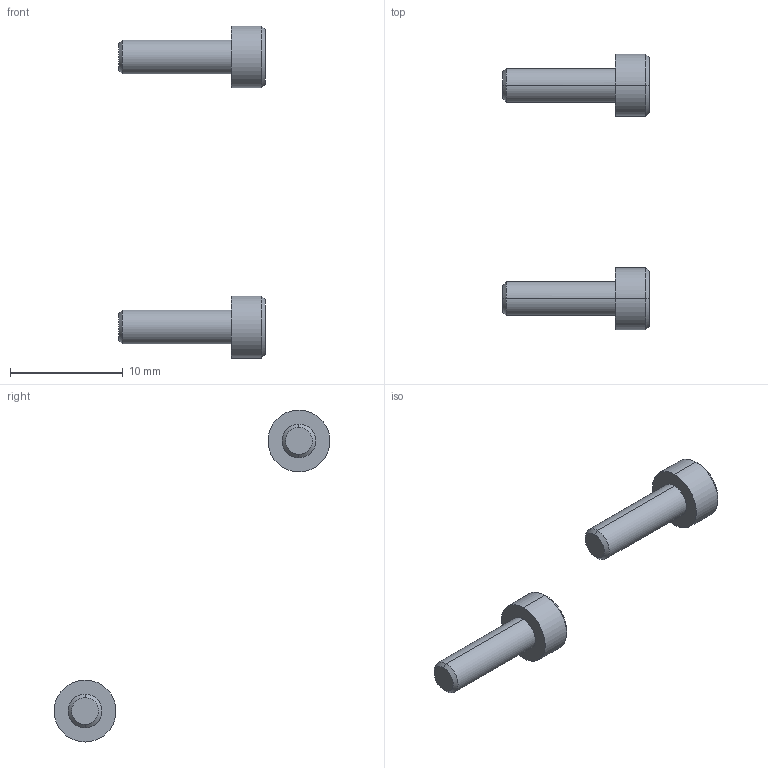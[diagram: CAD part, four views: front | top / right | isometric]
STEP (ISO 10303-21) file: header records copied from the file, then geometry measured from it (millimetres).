
FILE_DESCRIPTION(/* description */ (''),/* implementation_level */ '2;1');
FILE_NAME(/* name */ '1.frame-bottom#1.8#CB3-10',/* time_stamp */ '2014-12-01T20:11:31+01:00',/* author */ (''),/* organization */ (''),/* preprocessor_version */ 'ST-DEVELOPER v14',/* originating_system */ '',/* authorisation */ '');
FILE_SCHEMA (('AUTOMOTIVE_DESIGN'));
Length unit declared in the file: millimetre
Products named in the file (2): Document; screw DIN912-like, M3x10
Assembly tree (2 placements, depth 2):
  Document
    screw DIN912-like, M3x10  x2
Bounding box: 13 x 24.49 x 29.5 mm (x, y, z)
Volume: 264.9 mm3; surface area: 403.7 mm2
Topology: 2 solids, 2 shells, 50 faces, 112 edges, 66 vertices
Faces by surface type: plane 30, bspline 20
Entity records: 1413 total; most frequent: CARTESIAN_POINT 633, B_SPLINE_CURVE_WITH_KNOTS 126, ORIENTED_EDGE 108, PCURVE 108, DEFINITIONAL_REPRESENTATION 108, SURFACE_CURVE 54, EDGE_CURVE 54, VERTEX_POINT 33
